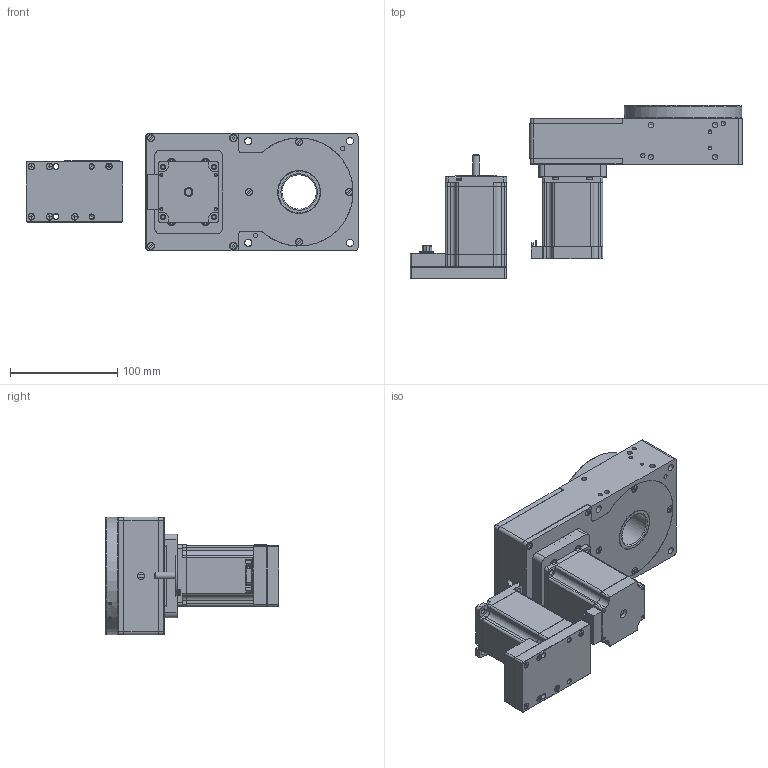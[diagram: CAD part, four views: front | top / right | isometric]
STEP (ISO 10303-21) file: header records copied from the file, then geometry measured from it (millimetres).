
FILE_DESCRIPTION (( 'STEP AP214' ), '1' );
FILE_NAME ('MDT360110-QN-MU.STEP', '2024-11-12T09:45:34', ( '' ), ( '' ), 'SwSTEP 2.0', 'SolidWorks 2022', '' );
FILE_SCHEMA (( 'AUTOMOTIVE_DESIGN' ));
Length unit declared in the file: millimetre
Products named in the file (5): MDT360110-QN-MU; NSM23-2,3Nm^MDT360110-QN-MU; GSM23-1,75Nm^MDT360110-QN-MU; MDT110ZA-02-01-000-Gehäuse-MU; MDT360110-01-999-Drehscheibe-mit-Hohlwelle
Assembly tree (4 placements, depth 2):
  MDT360110-QN-MU
    MDT110ZA-02-01-000-Gehäuse-MU
    MDT360110-01-999-Drehscheibe-mit-Hohlwelle
    NSM23-2,3Nm^MDT360110-QN-MU
    GSM23-1,75Nm^MDT360110-QN-MU
Bounding box: 310 x 162 x 110 mm (x, y, z)
Volume: 1147078.2 mm3; surface area: 312876.6 mm2
Topology: 39 solids, 45 shells, 1720 faces, 4216 edges, 2659 vertices
Faces by surface type: plane 815, cylinder 562, cone 200, bspline 102, torus 41
Full cylindrical faces by diameter (mm): 0.6 x15, 1.5 x1, 2 x1, 2.5 x24, 2.8 x2, 3 x20, 3.1 x8, 3.2 x10, 3.3 x10, 3.4 x4, 3.998 x4, 4 x10, 4.02 x10, 4.2 x3, 4.5 x4, 4.772 x4, 5 x28, 5.2 x2, 5.5 x1, 5.6 x10, 6 x13, 6.35 x2, 6.6 x4, 6.8 x5, 7 x5, 7.4 x1, 8 x4, 8.2 x2, 10.5 x1, 11 x4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
Entity records: 69622 total; most frequent: CARTESIAN_POINT 13126, DIRECTION 7912, ORIENTED_EDGE 7118, EDGE_CURVE 3559, AXIS2_PLACEMENT_3D 3014, VERTEX_POINT 2503, EDGE_LOOP 2416, FACE_OUTER_BOUND 2020
